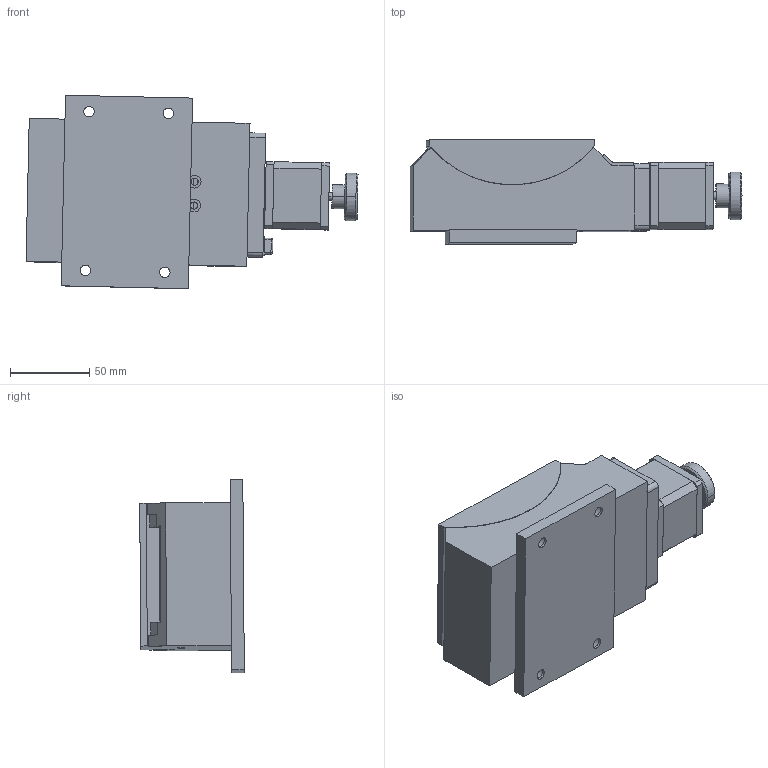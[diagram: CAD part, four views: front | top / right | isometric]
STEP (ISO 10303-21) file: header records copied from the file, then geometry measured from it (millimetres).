
FILE_DESCRIPTION (( 'STEP AP203' ), '1' );
FILE_NAME ('PT-GD303.STEP', '2022-08-21T03:14:45', ( '' ), ( '' ), 'SwSTEP 2.0', 'SolidWorks 2020', '' );
FILE_SCHEMA (( 'CONFIG_CONTROL_DESIGN' ));
Length unit declared in the file: millimetre
Products named in the file (18): 恦裝8; WN03GA45萇儂嘐隅啣; WN03GA45－70弧形导轨; WN03GA45說倛絳寢; 粣創階遠; PT-GD303; 齊嫌苤棠沺; WN03GA45粣創釱; 梓蛁怢醱; 齊嫌羲壽; 諷秶盄傷諳0; WN03GA45菁釱; 蟀粣ん4-5; ヶ裔啣; WN03GA45嘐隅釱啣; 苤粣創9X3.5X2.5-WN03GA90; 佪裝裔啣; YK42萇儂
Assembly tree (23 placements, depth 2):
  PT-GD303
    WN03GA45菁釱
    WN03GA45萇儂嘐隅啣
    WN03GA45說倛絳寢  x2
    WN03GA45－70弧形导轨  x2
    WN03GA45嘐隅釱啣
    恦裝8
    蟀粣ん4-5
    WN03GA45粣創釱
    苤粣創9X3.5X2.5-WN03GA90  x2
    粣創階遠  x2
    諷秶盄傷諳0
    佪裝裔啣
    齊嫌羲壽  x2
    齊嫌苤棠沺  x2
    ヶ裔啣
    梓蛁怢醱
    YK42萇儂
Bounding box: 208.97 x 65.83 x 121.84 mm (x, y, z)
Volume: 732962.3 mm3; surface area: 180499.5 mm2
Topology: 27 solids, 27 shells, 757 faces, 1781 edges, 1129 vertices
Faces by surface type: cylinder 389, plane 271, cone 74, bspline 23
Entity records: 24740 total; most frequent: CARTESIAN_POINT 6901, DIRECTION 3437, ORIENTED_EDGE 3072, EDGE_CURVE 1536, AXIS2_PLACEMENT_3D 1346, VERTEX_POINT 999, EDGE_LOOP 865, VECTOR 745
